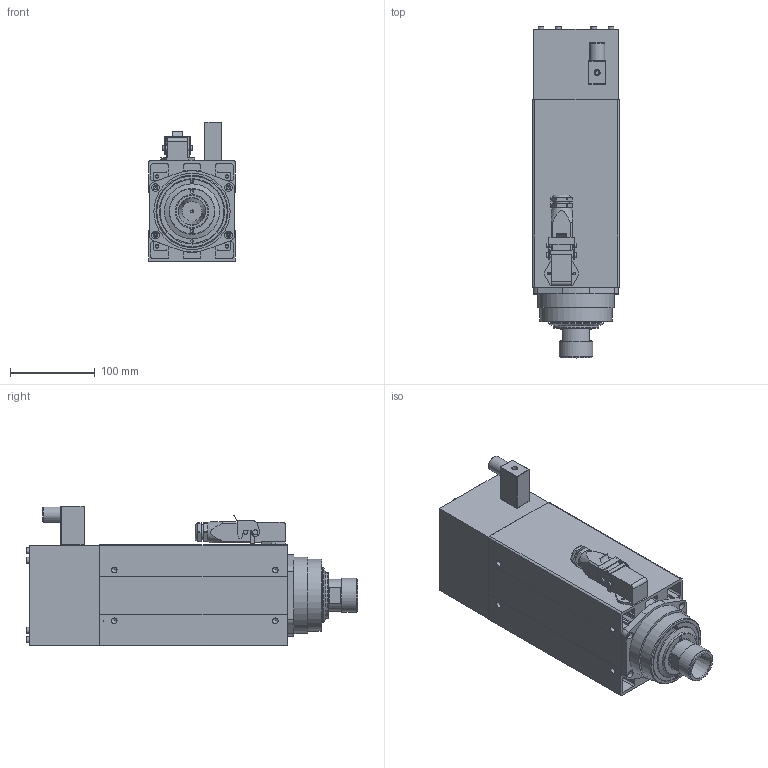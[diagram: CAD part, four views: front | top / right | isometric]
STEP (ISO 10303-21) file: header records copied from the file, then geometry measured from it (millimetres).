
FILE_DESCRIPTION( ( 'Unknown' ), '1' );
FILE_NAME( 'C:/Users/mbugari/Desktop/y6162y0076.stp', 'Unknown', ( 'Unknown' ), ( 'Unknown' ), 'PSStep 14.0', 'Unknown', ' ' );
FILE_SCHEMA( ( 'AUTOMOTIVE_DESIGN { 1 0 10303 214 1 1 1 1 }' ) );
Length unit declared in the file: millimetre
Products named in the file (14): Assieme connettore; connettore 90° HAN 09200030801; connettore dritto HAN 09200031440; Assem1; y091600131; Y080100059; Y121200008; M4x90; M4x50 ; ELETTROV.ASS.SERIE 3200J - 1090; Connettore_EV; Y160709035_TAGL; Y083700013; Y083700014
Assembly tree (19 placements, depth 3):
  Assem1
    y091600131
    Y080100059
    Y121200008
    M4x90  x4
    M4x50   x4
    ELETTROV.ASS.SERIE 3200J - 1090
    Connettore_EV
    Y160709035_TAGL
    Y083700013
    Y083700014
    Assieme connettore
      connettore 90° HAN 09200030801
      connettore dritto HAN 09200031440
Bounding box: 102 x 391.5 x 164.7 mm (x, y, z)
Volume: 1354734.5 mm3; surface area: 522797.9 mm2
Topology: 18 solids, 18 shells, 728 faces, 1878 edges, 1233 vertices
Faces by surface type: plane 375, cylinder 277, cone 55, torus 21
Full cylindrical faces by diameter (mm): 2.459 x3, 3.242 x5, 3.3 x5, 3.5 x3, 4 x8, 4.134 x6, 4.3 x17, 4.5 x3, 5 x4, 5.5 x4, 6 x4, 6.647 x12, 7 x9, 9 x4, 11 x1, 12 x1, 18 x2, 23.5 x1, 37.6 x3, 38.5 x1, 40 x3, 40.5 x1, 41 x1, 44.6 x1, 47.5 x1, 49.5 x2, 49.7 x1, 50 x1, 54 x1, 55 x1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
Entity records: 21602 total; most frequent: CARTESIAN_POINT 4539, DIRECTION 3250, ORIENTED_EDGE 2878, EDGE_CURVE 1439, AXIS2_PLACEMENT_3D 1228, VERTEX_POINT 1045, EDGE_LOOP 959, LINE 794
